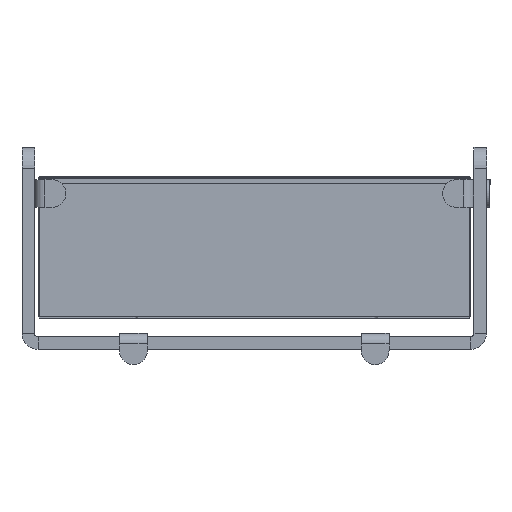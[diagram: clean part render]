
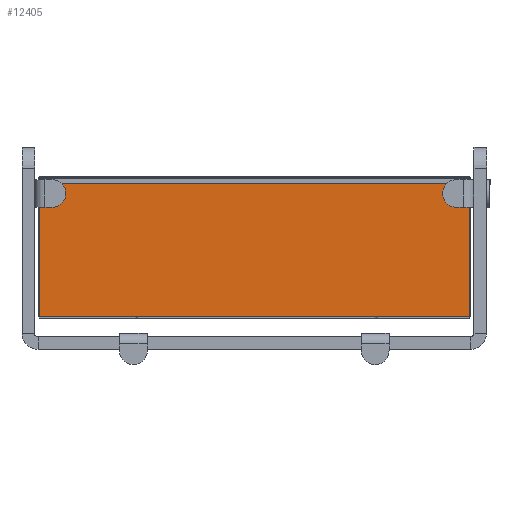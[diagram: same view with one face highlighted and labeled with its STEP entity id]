
A CAD part, front view. The second image highlights one B-rep face of the part: STEP entity #12405.
In plain terms, the highlighted planar face has unit normal (0, -1, 0) as drawn and (0, 0, 1) by its records, which use the part's own axes.
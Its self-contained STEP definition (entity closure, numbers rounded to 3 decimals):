
#163 = VECTOR ( 'NONE', #11268, 1000. ) ;
#1144 = LINE ( 'NONE', #2023, #2116 ) ;
#1403 = VERTEX_POINT ( 'NONE', #8021 ) ;
#1611 = ORIENTED_EDGE ( 'NONE', *, *, #8053, .F. ) ;
#1884 = CARTESIAN_POINT ( 'NONE',  ( 1.7, 0., 0. ) ) ;
#1994 = VERTEX_POINT ( 'NONE', #7336 ) ;
#2023 = CARTESIAN_POINT ( 'NONE',  ( 0., 200., 0. ) ) ;
#2116 = VECTOR ( 'NONE', #12327, 1000. ) ;
#2310 = VERTEX_POINT ( 'NONE', #6723 ) ;
#2692 = DIRECTION ( 'NONE',  ( 0., -1., 0. ) ) ;
#2808 = CARTESIAN_POINT ( 'NONE',  ( 0., 0., 0. ) ) ;
#3386 = CARTESIAN_POINT ( 'NONE',  ( 1.7, 0., 0. ) ) ;
#3555 = DIRECTION ( 'NONE',  ( -1., 0., 0. ) ) ;
#3878 = VECTOR ( 'NONE', #6544, 1000. ) ;
#4685 = PLANE ( 'NONE',  #9799 ) ;
#5940 = VERTEX_POINT ( 'NONE', #1884 ) ;
#6544 = DIRECTION ( 'NONE',  ( 0., 1., 0. ) ) ;
#6637 = FACE_OUTER_BOUND ( 'NONE', #9579, .T. ) ;
#6723 = CARTESIAN_POINT ( 'NONE',  ( 1.7, 200., 0. ) ) ;
#6784 = LINE ( 'NONE', #8594, #12566 ) ;
#7094 = EDGE_CURVE ( 'NONE', #1403, #1994, #6784, .T. ) ;
#7336 = CARTESIAN_POINT ( 'NONE',  ( 619.8, 0., 0. ) ) ;
#7461 = EDGE_CURVE ( 'NONE', #5940, #1994, #9920, .T. ) ;
#7695 = DIRECTION ( 'NONE',  ( 0., 0., -1. ) ) ;
#8021 = CARTESIAN_POINT ( 'NONE',  ( 619.8, 200., 0. ) ) ;
#8053 = EDGE_CURVE ( 'NONE', #5940, #2310, #9481, .T. ) ;
#8416 = ORIENTED_EDGE ( 'NONE', *, *, #7094, .F. ) ;
#8594 = CARTESIAN_POINT ( 'NONE',  ( 619.8, 200., 0. ) ) ;
#8730 = ORIENTED_EDGE ( 'NONE', *, *, #7461, .T. ) ;
#8938 = ORIENTED_EDGE ( 'NONE', *, *, #11992, .T. ) ;
#9481 = LINE ( 'NONE', #3386, #3878 ) ;
#9579 = EDGE_LOOP ( 'NONE', ( #1611, #8730, #8416, #8938 ) ) ;
#9799 = AXIS2_PLACEMENT_3D ( 'NONE', #2808, #7695, #3555 ) ;
#9920 = LINE ( 'NONE', #13128, #163 ) ;
#11268 = DIRECTION ( 'NONE',  ( 1., 0., 0. ) ) ;
#11992 = EDGE_CURVE ( 'NONE', #1403, #2310, #1144, .T. ) ;
#12327 = DIRECTION ( 'NONE',  ( -1., 0., 0. ) ) ;
#12405 = ADVANCED_FACE ( 'NONE', ( #6637 ), #4685, .F. ) ;
#12566 = VECTOR ( 'NONE', #2692, 1000. ) ;
#13128 = CARTESIAN_POINT ( 'NONE',  ( 0., 0., 0. ) ) ;
